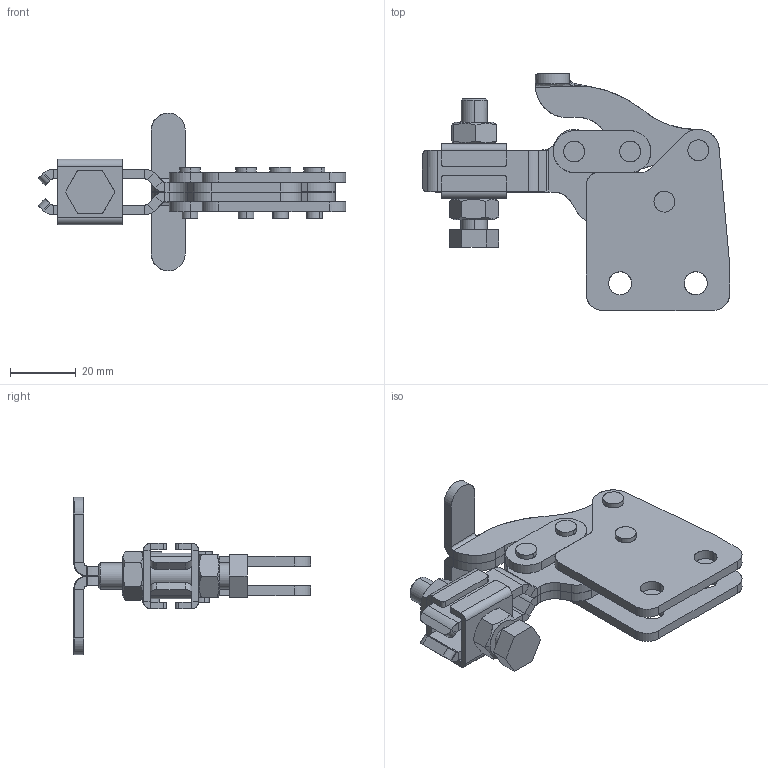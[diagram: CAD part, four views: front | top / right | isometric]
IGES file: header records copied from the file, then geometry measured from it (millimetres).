
Start section: SolidWorks IGES file using analytic representation for surfaces
Global section: file name: C:\Projetos\Grampos\KF-103\KF-103 R\KF-103 R.IGS; native system: SolidWorks 2011; preprocessor: SolidWorks 2011; author: Usuario; date: 110615.110632; units: millimetre
Bounding box: 93.67 x 72.24 x 48 mm (x, y, z)
Surface area: 28150.7 mm2 (no closed solid volume)
Topology: 0 solids, 0 shells, 361 faces, 5400 edges, 5392 vertices
Faces by surface type: revolution 188, bspline 173
